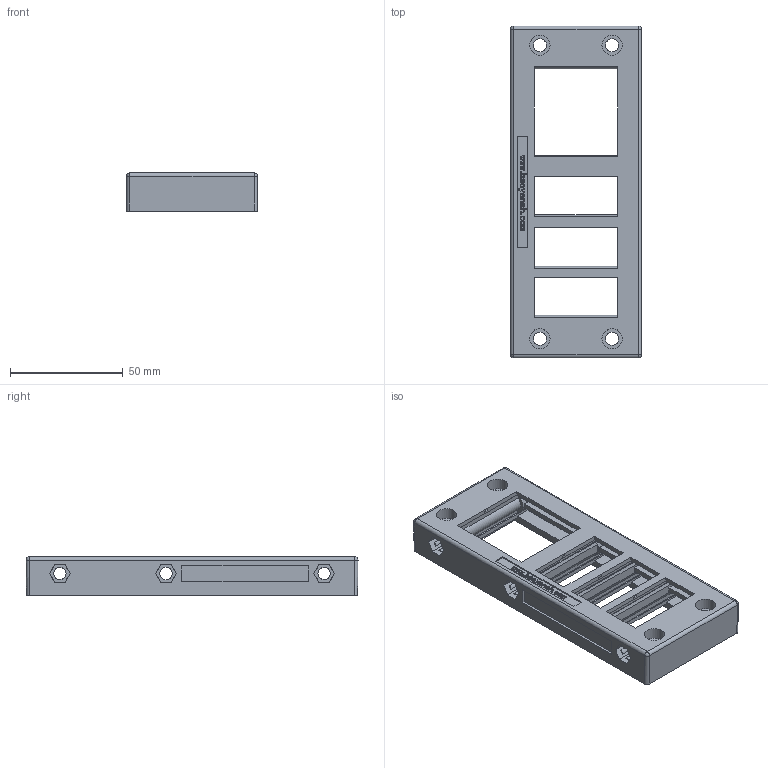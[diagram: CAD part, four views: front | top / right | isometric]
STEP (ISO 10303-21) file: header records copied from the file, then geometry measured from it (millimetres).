
FILE_DESCRIPTION(/* description */ (''),/* implementation_level */ '2;1');
FILE_NAME(/* name */ 'KEL 24-7.stp',/* time_stamp */ '2024-07-10T13:43:10+08:00',/* author */ (''),/* organization */ (''),/* preprocessor_version */ 'ST-DEVELOPER v16.7',/* originating_system */ 'SIEMENS PLM Software NX 12.0',/* authorisation */ '');
FILE_SCHEMA (('AP203_CONFIGURATION_CONTROLLED_3D_DESIGN_OF_MECHANICAL_PARTS_AND_ASSEMBLIES_MIM_LF { 1 0 10303 403 2 1 2}'));
Length unit declared in the file: millimetre
Products named in the file (1): Admi2BB01A31e4uw
Bounding box: 58 x 147 x 17 mm (x, y, z)
Volume: 58222 mm3; surface area: 39741.4 mm2
Topology: 1 solids, 5 shells, 837 faces, 2441 edges, 1649 vertices
Faces by surface type: plane 498, extrusion 137, cylinder 120, cone 36, bspline 24, sphere 12, torus 10
Full cylindrical faces by diameter (mm): 3 x2, 5.5 x3, 5.8 x4, 9 x7
Entity records: 30166 total; most frequent: CARTESIAN_POINT 8552, ORIENTED_EDGE 4818, DIRECTION 3828, EDGE_CURVE 2409, VERTEX_POINT 1645, VECTOR 1636, LINE 1499, AXIS2_PLACEMENT_3D 1096
